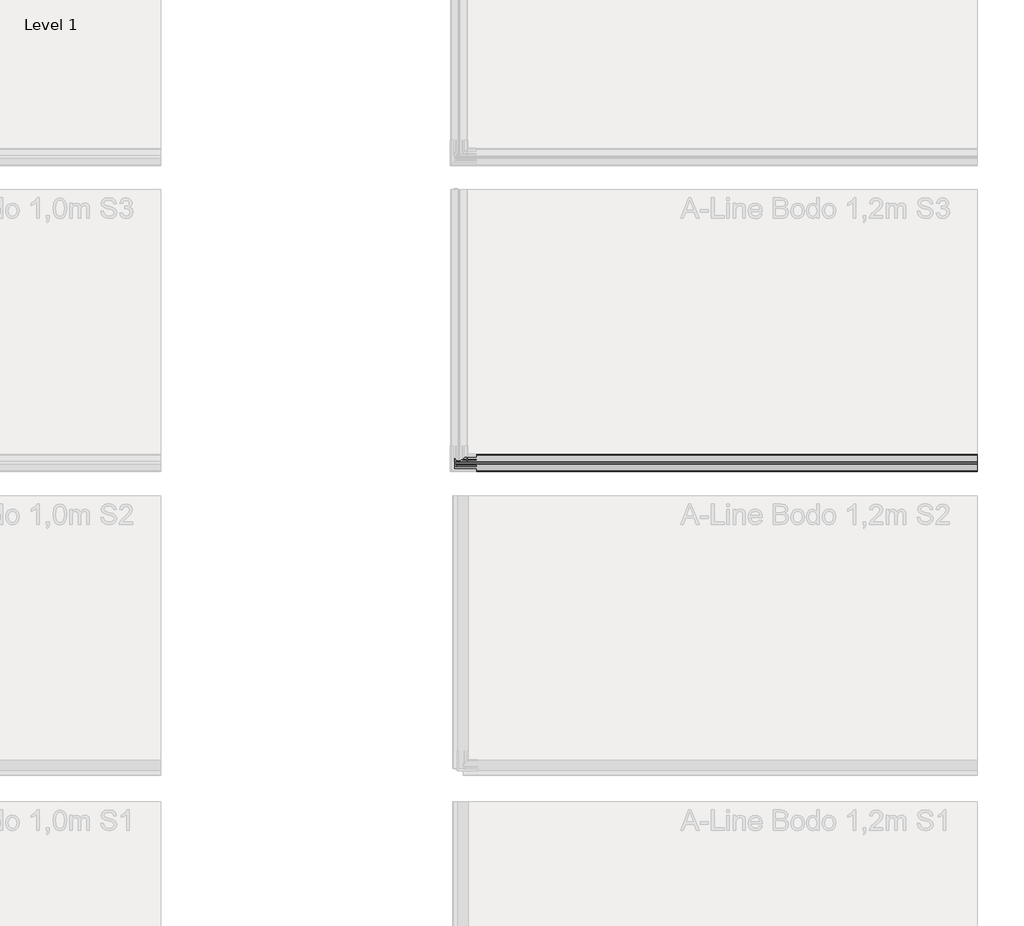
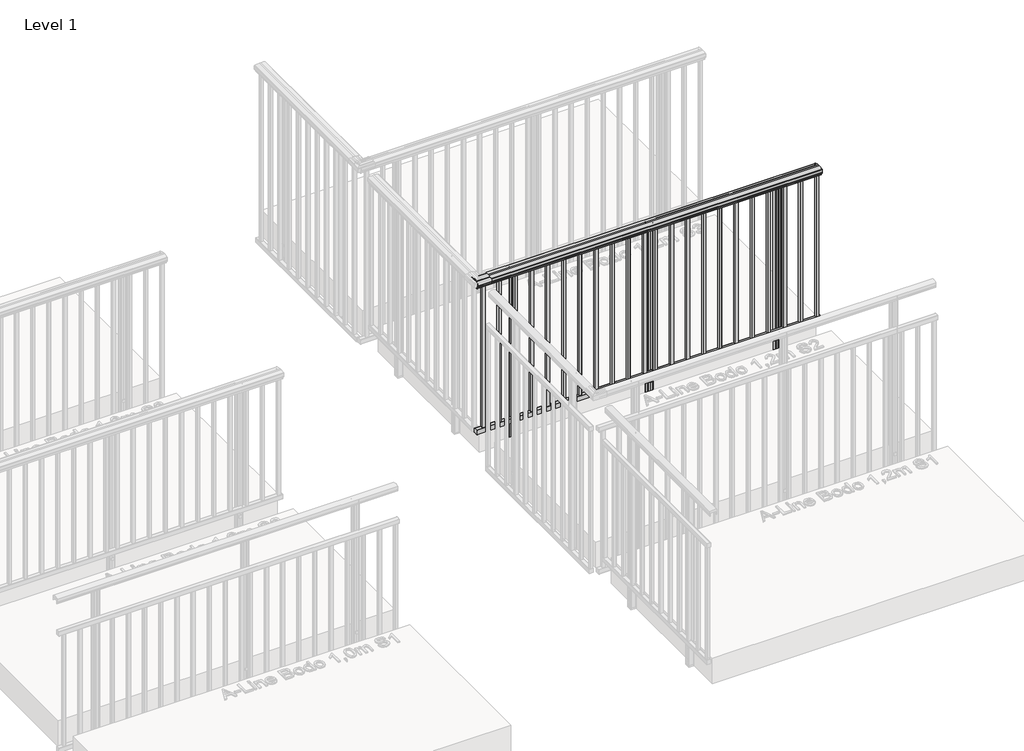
# One storey, part 13 of 66: 1 railing.
"""IFC4 building model written with IfcOpenShell, lengths in millimetres."""

from ifc_helpers import new_model, si_unit, point, frame, frame_2d, origin, place, context, project, spatial, polyline, circle_curve, trimmed, segment, composite_curve, outline, extrude, element, save

model = new_model("IFC4")

# Units and contexts
model_context = context("Model", 3, world=origin())
ifc_project = project(units=[si_unit("LENGTHUNIT", "METRE", prefix="MILLI")], contexts=[model_context])

# Site, building, storey
site = spatial("IfcSite", under=ifc_project)
building = spatial("IfcBuilding", under=site)
storey = spatial("IfcBuildingStorey", under=building, Name="Level 1", Elevation=0.0)

# Railing
placement = place(None, origin())
element("IfcRailing", 1, ObjectType="A-Line Bodo 1,2m S3", at=placement, inside=storey, context=model_context, shape_type="SweptSolid", body=[
    extrude(outline(composite_curve([segment(polyline([(-14649.7120598, 1170.6825033), (-14649.7120598, 1191.2139911)]), True, "CONTINUOUS"), segment(trimmed(circle_curve(frame_2d((-14646.7120598, 1191.2139911)), 3.0), [point((-14649.7120598, 1191.2139911))], [point((-14647.7785512, 1194.0180233))], False, "CARTESIAN"), True, "CONTINUOUS"), segment(trimmed(circle_curve(frame_2d((-14615.2120598, 1108.3938053)), 91.6083133), [point((-14647.7785512, 1194.0180233))], [point((-14615.2120598, 1200.0021186))], False, "CARTESIAN"), True, "CONTINUOUS"), segment(polyline([(-14615.2120598, 1200.0021186), (-14602.2120598, 1200.0021186)]), True, "CONTINUOUS"), segment(trimmed(circle_curve(frame_2d((-14602.2120598, 1108.3938053)), 91.6083133), [point((-14602.2120598, 1200.0021186))], [point((-14569.6455685, 1194.0180233))], False, "CARTESIAN"), True, "CONTINUOUS"), segment(trimmed(circle_curve(frame_2d((-14570.7120598, 1191.2139911)), 3.0), [point((-14569.6455685, 1194.0180233))], [point((-14567.7120598, 1191.2139911))], False, "CARTESIAN"), True, "CONTINUOUS"), segment(polyline([(-14567.7120598, 1191.2139911), (-14567.7522522, 1170.5325033), (-14568.3670352, 1169.9177203), (-14567.7120598, 1169.2627449), (-14567.7120598, 1165.5021186)]), True, "CONTINUOUS"), segment(trimmed(circle_curve(frame_2d((-14568.2120598, 1165.5021186)), 0.5), [point((-14567.7120598, 1165.5021186))], [point((-14568.2120598, 1165.0021186))], False, "CARTESIAN"), True, "CONTINUOUS"), segment(polyline([(-14568.2120598, 1165.0021186), (-14569.2120598, 1165.0021186), (-14569.2120598, 1179.5021186)]), True, "CONTINUOUS"), segment(trimmed(circle_curve(frame_2d((-14569.7120598, 1179.5021186)), 0.5), [point((-14569.2120598, 1179.5021186))], [point((-14569.7120598, 1180.0021186))], True, "CARTESIAN"), True, "CONTINUOUS"), segment(polyline([(-14569.7120598, 1180.0021186), (-14647.7120598, 1180.0021186)]), True, "CONTINUOUS"), segment(trimmed(circle_curve(frame_2d((-14647.7120598, 1179.5021186)), 0.5), [point((-14647.7120598, 1180.0021186))], [point((-14648.2120598, 1179.5021186))], True, "CARTESIAN"), True, "CONTINUOUS"), segment(polyline([(-14648.2120598, 1179.5021186), (-14648.2120598, 1165.0021186), (-14649.2120598, 1165.0021186)]), True, "CONTINUOUS"), segment(trimmed(circle_curve(frame_2d((-14649.2120598, 1165.5021186)), 0.5), [point((-14649.2120598, 1165.0021186))], [point((-14649.7120598, 1165.5021186))], False, "CARTESIAN"), True, "CONTINUOUS"), segment(polyline([(-14649.7120598, 1165.5021186), (-14649.6718675, 1169.4717338), (-14649.0865789, 1170.0570224), (-14649.7120598, 1170.6825033)]), True, "CONTINUOUS")], self_intersect=False)), frame((8444.0547322, 0.0, 0.0), z_axis=(1.0, 0.0, 0.0), x_axis=(0.0, 1.0, 0.0)), (0.0, 0.0, 1.0), 2560.0),
    extrude(outline(composite_curve([segment(trimmed(circle_curve(frame_2d((-14638.2613559, 1177.0)), 1.0), [point((-14639.2613559, 1177.0))], [point((-14638.2613559, 1178.0))], False, "CARTESIAN"), True, "CONTINUOUS"), segment(polyline([(-14638.2613559, 1178.0), (-14611.1613559, 1178.0)]), True, "CONTINUOUS"), segment(trimmed(circle_curve(frame_2d((-14611.1613559, 1177.0)), 1.0), [point((-14611.1613559, 1178.0))], [point((-14610.1613559, 1177.0))], False, "CARTESIAN"), True, "CONTINUOUS"), segment(polyline([(-14610.1613559, 1177.0), (-14610.1613559, 1144.8)]), True, "CONTINUOUS"), segment(trimmed(circle_curve(frame_2d((-14611.1613559, 1144.8)), 1.0), [point((-14610.1613559, 1144.8))], [point((-14611.1613559, 1143.8))], False, "CARTESIAN"), True, "CONTINUOUS"), segment(polyline([(-14611.1613559, 1143.8), (-14638.2613559, 1143.8)]), True, "CONTINUOUS"), segment(trimmed(circle_curve(frame_2d((-14638.2613559, 1144.8)), 1.0), [point((-14638.2613559, 1143.8))], [point((-14639.2613559, 1144.8))], False, "CARTESIAN"), True, "CONTINUOUS"), segment(polyline([(-14639.2613559, 1144.8), (-14639.2613559, 1177.0)]), True, "CONTINUOUS")], self_intersect=False)), frame((8444.0547322, 0.0, 0.0), z_axis=(1.0, 0.0, 0.0), x_axis=(0.0, 1.0, 0.0)), (0.0, 0.0, 1.0), 2560.0),
    extrude(outline(composite_curve([segment(polyline([(-14638.2613559, 34.2), (-14611.1613559, 34.2)]), True, "CONTINUOUS"), segment(trimmed(circle_curve(frame_2d((-14611.1613559, 33.2)), 1.0), [point((-14611.1613559, 34.2))], [point((-14610.1613559, 33.2))], False, "CARTESIAN"), True, "CONTINUOUS"), segment(polyline([(-14610.1613559, 33.2), (-14610.1613559, 1.0)]), True, "CONTINUOUS"), segment(trimmed(circle_curve(frame_2d((-14611.1613559, 1.0)), 1.0), [point((-14610.1613559, 1.0))], [point((-14611.1613559, 0.0))], False, "CARTESIAN"), True, "CONTINUOUS"), segment(polyline([(-14611.1613559, 0.0), (-14638.2613559, 0.0)]), True, "CONTINUOUS"), segment(trimmed(circle_curve(frame_2d((-14638.2613559, 1.0)), 1.0), [point((-14638.2613559, 0.0))], [point((-14639.2613559, 1.0))], False, "CARTESIAN"), True, "CONTINUOUS"), segment(polyline([(-14639.2613559, 1.0), (-14639.2613559, 33.2)]), True, "CONTINUOUS"), segment(trimmed(circle_curve(frame_2d((-14638.2613559, 33.2)), 1.0), [point((-14639.2613559, 33.2))], [point((-14638.2613559, 34.2))], False, "CARTESIAN"), True, "CONTINUOUS")], self_intersect=False)), frame((8444.0547322, 0.0, 0.0), z_axis=(1.0, 0.0, 0.0), x_axis=(0.0, 1.0, 0.0)), (0.0, 0.0, 1.0), 2560.0),
    extrude(outline(polyline([(10969.0547322, -14634.7113559), (10969.0547322, -14614.7113559), (10989.0547322, -14614.7113559), (10989.0547322, -14634.7113559), (10969.0547322, -14634.7113559)]), holes=[polyline([(10971.0547322, -14632.7113559), (10987.0547322, -14632.7113559), (10987.0547322, -14616.7113559), (10971.0547322, -14616.7113559), (10971.0547322, -14632.7113559)])]), frame((0.0, 0.0, 34.0), z_axis=(0.0, 0.0, 1.0), x_axis=(1.0, 0.0, 0.0)), (0.0, 0.0, 1.0), 1110.0),
    extrude(outline(polyline([(10849.0547322, -14634.7113559), (10849.0547322, -14614.7113559), (10869.0547322, -14614.7113559), (10869.0547322, -14634.7113559), (10849.0547322, -14634.7113559)]), holes=[polyline([(10851.0547322, -14632.7113559), (10867.0547322, -14632.7113559), (10867.0547322, -14616.7113559), (10851.0547322, -14616.7113559), (10851.0547322, -14632.7113559)])]), frame((0.0, 0.0, 34.0), z_axis=(0.0, 0.0, 1.0), x_axis=(1.0, 0.0, 0.0)), (0.0, 0.0, 1.0), 1110.0),
    extrude(outline(polyline([(10729.0547322, -14634.7113559), (10729.0547322, -14614.7113559), (10749.0547322, -14614.7113559), (10749.0547322, -14634.7113559), (10729.0547322, -14634.7113559)]), holes=[polyline([(10731.0547322, -14632.7113559), (10747.0547322, -14632.7113559), (10747.0547322, -14616.7113559), (10731.0547322, -14616.7113559), (10731.0547322, -14632.7113559)])]), frame((0.0, 0.0, 34.0), z_axis=(0.0, 0.0, 1.0), x_axis=(1.0, 0.0, 0.0)), (0.0, 0.0, 1.0), 1110.0),
    extrude(outline(polyline([(10609.0547322, -14634.7113559), (10609.0547322, -14614.7113559), (10629.0547322, -14614.7113559), (10629.0547322, -14634.7113559), (10609.0547322, -14634.7113559)]), holes=[polyline([(10611.0547322, -14632.7113559), (10627.0547322, -14632.7113559), (10627.0547322, -14616.7113559), (10611.0547322, -14616.7113559), (10611.0547322, -14632.7113559)])]), frame((0.0, 0.0, 34.0), z_axis=(0.0, 0.0, 1.0), x_axis=(1.0, 0.0, 0.0)), (0.0, 0.0, 1.0), 1110.0),
    extrude(outline(polyline([(10489.0547322, -14634.7113559), (10489.0547322, -14614.7113559), (10509.0547322, -14614.7113559), (10509.0547322, -14634.7113559), (10489.0547322, -14634.7113559)]), holes=[polyline([(10491.0547322, -14632.7113559), (10507.0547322, -14632.7113559), (10507.0547322, -14616.7113559), (10491.0547322, -14616.7113559), (10491.0547322, -14632.7113559)])]), frame((0.0, 0.0, 34.0), z_axis=(0.0, 0.0, 1.0), x_axis=(1.0, 0.0, 0.0)), (0.0, 0.0, 1.0), 1110.0),
    extrude(outline(polyline([(10369.0547322, -14634.7113559), (10369.0547322, -14614.7113559), (10389.0547322, -14614.7113559), (10389.0547322, -14634.7113559), (10369.0547322, -14634.7113559)]), holes=[polyline([(10371.0547322, -14632.7113559), (10387.0547322, -14632.7113559), (10387.0547322, -14616.7113559), (10371.0547322, -14616.7113559), (10371.0547322, -14632.7113559)])]), frame((0.0, 0.0, 34.0), z_axis=(0.0, 0.0, 1.0), x_axis=(1.0, 0.0, 0.0)), (0.0, 0.0, 1.0), 1110.0),
    extrude(outline(polyline([(10249.0547322, -14634.7113559), (10249.0547322, -14614.7113559), (10269.0547322, -14614.7113559), (10269.0547322, -14634.7113559), (10249.0547322, -14634.7113559)]), holes=[polyline([(10251.0547322, -14632.7113559), (10267.0547322, -14632.7113559), (10267.0547322, -14616.7113559), (10251.0547322, -14616.7113559), (10251.0547322, -14632.7113559)])]), frame((0.0, 0.0, 34.0), z_axis=(0.0, 0.0, 1.0), x_axis=(1.0, 0.0, 0.0)), (0.0, 0.0, 1.0), 1110.0),
    extrude(outline(polyline([(10129.0547322, -14634.7113559), (10129.0547322, -14614.7113559), (10149.0547322, -14614.7113559), (10149.0547322, -14634.7113559), (10129.0547322, -14634.7113559)]), holes=[polyline([(10131.0547322, -14632.7113559), (10147.0547322, -14632.7113559), (10147.0547322, -14616.7113559), (10131.0547322, -14616.7113559), (10131.0547322, -14632.7113559)])]), frame((0.0, 0.0, 34.0), z_axis=(0.0, 0.0, 1.0), x_axis=(1.0, 0.0, 0.0)), (0.0, 0.0, 1.0), 1110.0),
    extrude(outline(polyline([(10009.0547322, -14634.7113559), (10009.0547322, -14614.7113559), (10029.0547322, -14614.7113559), (10029.0547322, -14634.7113559), (10009.0547322, -14634.7113559)]), holes=[polyline([(10011.0547322, -14632.7113559), (10027.0547322, -14632.7113559), (10027.0547322, -14616.7113559), (10011.0547322, -14616.7113559), (10011.0547322, -14632.7113559)])]), frame((0.0, 0.0, 34.0), z_axis=(0.0, 0.0, 1.0), x_axis=(1.0, 0.0, 0.0)), (0.0, 0.0, 1.0), 1110.0),
    extrude(outline(polyline([(9889.0547322, -14634.7113559), (9889.0547322, -14614.7113559), (9909.0547322, -14614.7113559), (9909.0547322, -14634.7113559), (9889.0547322, -14634.7113559)]), holes=[polyline([(9891.0547322, -14632.7113559), (9907.0547322, -14632.7113559), (9907.0547322, -14616.7113559), (9891.0547322, -14616.7113559), (9891.0547322, -14632.7113559)])]), frame((0.0, 0.0, 34.0), z_axis=(0.0, 0.0, 1.0), x_axis=(1.0, 0.0, 0.0)), (0.0, 0.0, 1.0), 1110.0),
    extrude(outline(polyline([(9769.0547322, -14634.7113559), (9769.0547322, -14614.7113559), (9789.0547322, -14614.7113559), (9789.0547322, -14634.7113559), (9769.0547322, -14634.7113559)]), holes=[polyline([(9771.0547322, -14632.7113559), (9787.0547322, -14632.7113559), (9787.0547322, -14616.7113559), (9771.0547322, -14616.7113559), (9771.0547322, -14632.7113559)])]), frame((0.0, 0.0, 34.0), z_axis=(0.0, 0.0, 1.0), x_axis=(1.0, 0.0, 0.0)), (0.0, 0.0, 1.0), 1110.0),
    extrude(outline(polyline([(9689.0547322, -14634.7113559), (9689.0547322, -14614.7113559), (9709.0547322, -14614.7113559), (9709.0547322, -14634.7113559), (9689.0547322, -14634.7113559)]), holes=[polyline([(9691.0547322, -14632.7113559), (9707.0547322, -14632.7113559), (9707.0547322, -14616.7113559), (9691.0547322, -14616.7113559), (9691.0547322, -14632.7113559)])]), frame((0.0, 0.0, 34.0), z_axis=(0.0, 0.0, 1.0), x_axis=(1.0, 0.0, 0.0)), (0.0, 0.0, 1.0), 1110.0),
    extrude(outline(polyline([(9569.0547322, -14634.7113559), (9569.0547322, -14614.7113559), (9589.0547322, -14614.7113559), (9589.0547322, -14634.7113559), (9569.0547322, -14634.7113559)]), holes=[polyline([(9571.0547322, -14632.7113559), (9587.0547322, -14632.7113559), (9587.0547322, -14616.7113559), (9571.0547322, -14616.7113559), (9571.0547322, -14632.7113559)])]), frame((0.0, 0.0, 34.0), z_axis=(0.0, 0.0, 1.0), x_axis=(1.0, 0.0, 0.0)), (0.0, 0.0, 1.0), 1110.0),
    extrude(outline(polyline([(9449.0547322, -14634.7113559), (9449.0547322, -14614.7113559), (9469.0547322, -14614.7113559), (9469.0547322, -14634.7113559), (9449.0547322, -14634.7113559)]), holes=[polyline([(9451.0547322, -14632.7113559), (9467.0547322, -14632.7113559), (9467.0547322, -14616.7113559), (9451.0547322, -14616.7113559), (9451.0547322, -14632.7113559)])]), frame((0.0, 0.0, 34.0), z_axis=(0.0, 0.0, 1.0), x_axis=(1.0, 0.0, 0.0)), (0.0, 0.0, 1.0), 1110.0),
    extrude(outline(polyline([(9329.0547322, -14634.7113559), (9329.0547322, -14614.7113559), (9349.0547322, -14614.7113559), (9349.0547322, -14634.7113559), (9329.0547322, -14634.7113559)]), holes=[polyline([(9331.0547322, -14632.7113559), (9347.0547322, -14632.7113559), (9347.0547322, -14616.7113559), (9331.0547322, -14616.7113559), (9331.0547322, -14632.7113559)])]), frame((0.0, 0.0, 34.0), z_axis=(0.0, 0.0, 1.0), x_axis=(1.0, 0.0, 0.0)), (0.0, 0.0, 1.0), 1110.0),
    extrude(outline(polyline([(9209.0547322, -14634.7113559), (9209.0547322, -14614.7113559), (9229.0547322, -14614.7113559), (9229.0547322, -14634.7113559), (9209.0547322, -14634.7113559)]), holes=[polyline([(9211.0547322, -14632.7113559), (9227.0547322, -14632.7113559), (9227.0547322, -14616.7113559), (9211.0547322, -14616.7113559), (9211.0547322, -14632.7113559)])]), frame((0.0, 0.0, 34.0), z_axis=(0.0, 0.0, 1.0), x_axis=(1.0, 0.0, 0.0)), (0.0, 0.0, 1.0), 1110.0),
    extrude(outline(polyline([(9089.0547322, -14634.7113559), (9089.0547322, -14614.7113559), (9109.0547322, -14614.7113559), (9109.0547322, -14634.7113559), (9089.0547322, -14634.7113559)]), holes=[polyline([(9091.0547322, -14632.7113559), (9107.0547322, -14632.7113559), (9107.0547322, -14616.7113559), (9091.0547322, -14616.7113559), (9091.0547322, -14632.7113559)])]), frame((0.0, 0.0, 34.0), z_axis=(0.0, 0.0, 1.0), x_axis=(1.0, 0.0, 0.0)), (0.0, 0.0, 1.0), 1110.0),
    extrude(outline(polyline([(8969.0547322, -14634.7113559), (8969.0547322, -14614.7113559), (8989.0547322, -14614.7113559), (8989.0547322, -14634.7113559), (8969.0547322, -14634.7113559)]), holes=[polyline([(8971.0547322, -14632.7113559), (8987.0547322, -14632.7113559), (8987.0547322, -14616.7113559), (8971.0547322, -14616.7113559), (8971.0547322, -14632.7113559)])]), frame((0.0, 0.0, 34.0), z_axis=(0.0, 0.0, 1.0), x_axis=(1.0, 0.0, 0.0)), (0.0, 0.0, 1.0), 1110.0),
    extrude(outline(polyline([(8849.0547322, -14634.7113559), (8849.0547322, -14614.7113559), (8869.0547322, -14614.7113559), (8869.0547322, -14634.7113559), (8849.0547322, -14634.7113559)]), holes=[polyline([(8851.0547322, -14632.7113559), (8867.0547322, -14632.7113559), (8867.0547322, -14616.7113559), (8851.0547322, -14616.7113559), (8851.0547322, -14632.7113559)])]), frame((0.0, 0.0, 34.0), z_axis=(0.0, 0.0, 1.0), x_axis=(1.0, 0.0, 0.0)), (0.0, 0.0, 1.0), 1110.0),
    extrude(outline(polyline([(8729.0547322, -14634.7113559), (8729.0547322, -14614.7113559), (8749.0547322, -14614.7113559), (8749.0547322, -14634.7113559), (8729.0547322, -14634.7113559)]), holes=[polyline([(8731.0547322, -14632.7113559), (8747.0547322, -14632.7113559), (8747.0547322, -14616.7113559), (8731.0547322, -14616.7113559), (8731.0547322, -14632.7113559)])]), frame((0.0, 0.0, 34.0), z_axis=(0.0, 0.0, 1.0), x_axis=(1.0, 0.0, 0.0)), (0.0, 0.0, 1.0), 1110.0),
    extrude(outline(polyline([(8609.0547322, -14634.7113559), (8609.0547322, -14614.7113559), (8629.0547322, -14614.7113559), (8629.0547322, -14634.7113559), (8609.0547322, -14634.7113559)]), holes=[polyline([(8611.0547322, -14632.7113559), (8627.0547322, -14632.7113559), (8627.0547322, -14616.7113559), (8611.0547322, -14616.7113559), (8611.0547322, -14632.7113559)])]), frame((0.0, 0.0, 34.0), z_axis=(0.0, 0.0, 1.0), x_axis=(1.0, 0.0, 0.0)), (0.0, 0.0, 1.0), 1110.0),
    extrude(outline(polyline([(8489.0547322, -14634.7113559), (8489.0547322, -14614.7113559), (8509.0547322, -14614.7113559), (8509.0547322, -14634.7113559), (8489.0547322, -14634.7113559)]), holes=[polyline([(8491.0547322, -14632.7113559), (8507.0547322, -14632.7113559), (8507.0547322, -14616.7113559), (8491.0547322, -14616.7113559), (8491.0547322, -14632.7113559)])]), frame((0.0, 0.0, 34.0), z_axis=(0.0, 0.0, 1.0), x_axis=(1.0, 0.0, 0.0)), (0.0, 0.0, 1.0), 1110.0),
    extrude(outline(composite_curve([segment(polyline([(9754.8575193, -14569.7113559), (9771.8808192, -14569.7113559)]), True, "CONTINUOUS"), segment(trimmed(circle_curve(frame_2d((9771.8808192, -14571.885269)), 2.173913), [point((9771.8808192, -14569.7113559))], [point((9774.0547322, -14571.885269))], False, "CARTESIAN"), True, "CONTINUOUS"), segment(polyline([(9774.0547322, -14571.885269), (9774.0547322, -14607.5374429)]), True, "CONTINUOUS"), segment(trimmed(circle_curve(frame_2d((9771.8808192, -14607.5374429)), 2.173913), [point((9774.0547322, -14607.5374429))], [point((9771.8808192, -14609.7113559))], False, "CARTESIAN"), True, "CONTINUOUS"), segment(polyline([(9771.8808192, -14609.7113559), (9754.8225694, -14609.676406), (9754.0547322, -14608.9085689), (9753.2868951, -14609.676406), (9736.2286453, -14609.7113559)]), True, "CONTINUOUS"), segment(trimmed(circle_curve(frame_2d((9736.2286453, -14607.5374429)), 2.173913), [point((9736.2286453, -14609.7113559))], [point((9734.0547322, -14607.5374429))], False, "CARTESIAN"), True, "CONTINUOUS"), segment(polyline([(9734.0547322, -14607.5374429), (9734.0547322, -14571.885269)]), True, "CONTINUOUS"), segment(trimmed(circle_curve(frame_2d((9736.2286453, -14571.885269)), 2.173913), [point((9734.0547322, -14571.885269))], [point((9736.2286452, -14569.7113559))], False, "CARTESIAN"), True, "CONTINUOUS"), segment(polyline([(9736.2286452, -14569.7113559), (9753.2868951, -14569.7463058), (9754.0547322, -14570.5141429), (9754.8575193, -14569.7113559)]), True, "CONTINUOUS")], self_intersect=False)), frame((0.0, 0.0, -200.0), z_axis=(0.0, 0.0, 1.0), x_axis=(1.0, 0.0, 0.0)), (0.0, 0.0, 1.0), 10.0),
    extrude(outline(composite_curve([segment(trimmed(circle_curve(frame_2d((0.0, 12.0)), 12.0), [point((0.0, 23.9999999))], [point((0.0, 0.0))], False, "CARTESIAN"), True, "CONTINUOUS"), segment(trimmed(circle_curve(frame_2d((0.0, 12.0)), 12.0), [point((0.0, 0.0))], [point((0.0, 23.9999999))], False, "CARTESIAN"), True, "CONTINUOUS")], self_intersect=False)), frame((9742.0444554, -14612.7751851, -151.0), z_axis=(0.0004029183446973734, 0.9999999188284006, 0.0), x_axis=(0.0, 0.0, 1.0)), (0.0, 0.0, 1.0), 3.0757477),
    extrude(outline(composite_curve([segment(trimmed(circle_curve(frame_2d((0.0, 12.0)), 12.0), [point((0.0, 23.9999999))], [point((0.0, 0.0))], False, "CARTESIAN"), True, "CONTINUOUS"), segment(trimmed(circle_curve(frame_2d((0.0, 12.0)), 12.0), [point((0.0, 0.0))], [point((0.0, 23.9999999))], False, "CARTESIAN"), True, "CONTINUOUS")], self_intersect=False)), frame((9742.0444554, -14612.7751851, -50.0), z_axis=(0.0004029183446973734, 0.9999999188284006, 0.0), x_axis=(0.0, 0.0, 1.0)), (0.0, 0.0, 1.0), 3.0757477),
    extrude(outline(composite_curve([segment(trimmed(circle_curve(frame_2d((9736.2286453, -14571.885269)), 2.173913), [point((9734.0547322, -14571.885269))], [point((9736.2286453, -14569.7113559))], False, "CARTESIAN"), True, "CONTINUOUS"), segment(polyline([(9736.2286453, -14569.7113559), (9753.2868951, -14569.7463058), (9754.185167, -14570.1143102), (9754.9530042, -14569.7113559), (9771.8808192, -14569.7113559)]), True, "CONTINUOUS"), segment(trimmed(circle_curve(frame_2d((9771.8808192, -14571.885269)), 2.173913), [point((9771.8808192, -14569.7113559))], [point((9774.0547322, -14571.885269))], False, "CARTESIAN"), True, "CONTINUOUS"), segment(polyline([(9774.0547322, -14571.885269), (9774.0547322, -14607.5374429)]), True, "CONTINUOUS"), segment(trimmed(circle_curve(frame_2d((9771.8808192, -14607.5374429)), 2.173913), [point((9774.0547322, -14607.5374429))], [point((9771.8808192, -14609.7113559))], False, "CARTESIAN"), True, "CONTINUOUS"), segment(polyline([(9771.8808192, -14609.7113559), (9754.8225694, -14609.676406), (9754.0547322, -14608.9085689), (9753.2868951, -14609.676406), (9736.2286453, -14609.7113559)]), True, "CONTINUOUS"), segment(trimmed(circle_curve(frame_2d((9736.2286453, -14607.5374429)), 2.173913), [point((9736.2286453, -14609.7113559))], [point((9734.0547322, -14607.5374429))], False, "CARTESIAN"), True, "CONTINUOUS"), segment(polyline([(9734.0547322, -14607.5374429), (9734.0547322, -14571.885269)]), True, "CONTINUOUS")], self_intersect=False), holes=[composite_curve([segment(polyline([(9737.5329931, -14574.059182), (9737.5329931, -14605.3635298)]), True, "CONTINUOUS"), segment(trimmed(circle_curve(frame_2d((9738.4025583, -14605.3635298)), 0.8695652), [point((9737.5329931, -14605.3635298))], [point((9738.4025583, -14606.233095))], True, "CARTESIAN"), True, "CONTINUOUS"), segment(polyline([(9738.4025583, -14606.233095), (9769.7069062, -14606.233095)]), True, "CONTINUOUS"), segment(trimmed(circle_curve(frame_2d((9769.7069062, -14605.3635298)), 0.8695652), [point((9769.7069062, -14606.233095))], [point((9770.5764714, -14605.3635298))], True, "CARTESIAN"), True, "CONTINUOUS"), segment(polyline([(9770.5764714, -14605.3635298), (9770.5764714, -14574.059182)]), True, "CONTINUOUS"), segment(trimmed(circle_curve(frame_2d((9769.7069062, -14574.059182)), 0.8695652), [point((9770.5764714, -14574.059182))], [point((9769.7069062, -14573.1896168))], True, "CARTESIAN"), True, "CONTINUOUS"), segment(polyline([(9769.7069062, -14573.1896168), (9738.4025583, -14573.1896168)]), True, "CONTINUOUS"), segment(trimmed(circle_curve(frame_2d((9738.4025583, -14574.059182)), 0.8695652), [point((9738.4025583, -14573.1896168))], [point((9737.5329931, -14574.059182))], True, "CARTESIAN"), True, "CONTINUOUS")], self_intersect=False)]), frame((0.0, 0.0, -190.0), z_axis=(0.0, 0.0, 1.0), x_axis=(1.0, 0.0, 0.0)), (0.0, 0.0, 1.0), 1370.0),
    extrude(outline(composite_curve([segment(polyline([(10704.8575193, -14569.7113559), (10721.8808192, -14569.7113559)]), True, "CONTINUOUS"), segment(trimmed(circle_curve(frame_2d((10721.8808192, -14571.885269)), 2.173913), [point((10721.8808192, -14569.7113559))], [point((10724.0547322, -14571.885269))], False, "CARTESIAN"), True, "CONTINUOUS"), segment(polyline([(10724.0547322, -14571.885269), (10724.0547322, -14607.5374429)]), True, "CONTINUOUS"), segment(trimmed(circle_curve(frame_2d((10721.8808192, -14607.5374429)), 2.173913), [point((10724.0547322, -14607.5374429))], [point((10721.8808192, -14609.7113559))], False, "CARTESIAN"), True, "CONTINUOUS"), segment(polyline([(10721.8808192, -14609.7113559), (10704.8225694, -14609.676406), (10704.0547322, -14608.9085689), (10703.2868951, -14609.676406), (10686.2286453, -14609.7113559)]), True, "CONTINUOUS"), segment(trimmed(circle_curve(frame_2d((10686.2286453, -14607.5374429)), 2.173913), [point((10686.2286453, -14609.7113559))], [point((10684.0547322, -14607.5374429))], False, "CARTESIAN"), True, "CONTINUOUS"), segment(polyline([(10684.0547322, -14607.5374429), (10684.0547322, -14571.885269)]), True, "CONTINUOUS"), segment(trimmed(circle_curve(frame_2d((10686.2286453, -14571.885269)), 2.173913), [point((10684.0547322, -14571.885269))], [point((10686.2286452, -14569.7113559))], False, "CARTESIAN"), True, "CONTINUOUS"), segment(polyline([(10686.2286452, -14569.7113559), (10703.2868951, -14569.7463058), (10704.0547322, -14570.5141429), (10704.8575193, -14569.7113559)]), True, "CONTINUOUS")], self_intersect=False)), frame((0.0, 0.0, -200.0), z_axis=(0.0, 0.0, 1.0), x_axis=(1.0, 0.0, 0.0)), (0.0, 0.0, 1.0), 10.0),
    extrude(outline(composite_curve([segment(trimmed(circle_curve(frame_2d((0.0, 12.0)), 12.0), [point((0.0, 23.9999999))], [point((0.0, 0.0))], False, "CARTESIAN"), True, "CONTINUOUS"), segment(trimmed(circle_curve(frame_2d((0.0, 12.0)), 12.0), [point((0.0, 0.0))], [point((0.0, 23.9999999))], False, "CARTESIAN"), True, "CONTINUOUS")], self_intersect=False)), frame((10692.0444554, -14612.7751851, -151.0), z_axis=(0.00040291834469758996, 0.9999999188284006, 0.0), x_axis=(0.0, 0.0, 1.0)), (0.0, 0.0, 1.0), 3.0757477),
    extrude(outline(composite_curve([segment(trimmed(circle_curve(frame_2d((0.0, 12.0)), 12.0), [point((0.0, 23.9999999))], [point((0.0, 0.0))], False, "CARTESIAN"), True, "CONTINUOUS"), segment(trimmed(circle_curve(frame_2d((0.0, 12.0)), 12.0), [point((0.0, 0.0))], [point((0.0, 23.9999999))], False, "CARTESIAN"), True, "CONTINUOUS")], self_intersect=False)), frame((10692.0444554, -14612.7751851, -50.0), z_axis=(0.00040291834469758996, 0.9999999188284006, 0.0), x_axis=(0.0, 0.0, 1.0)), (0.0, 0.0, 1.0), 3.0757477),
    extrude(outline(composite_curve([segment(trimmed(circle_curve(frame_2d((10686.2286453, -14571.885269)), 2.173913), [point((10684.0547322, -14571.885269))], [point((10686.2286453, -14569.7113559))], False, "CARTESIAN"), True, "CONTINUOUS"), segment(polyline([(10686.2286453, -14569.7113559), (10703.2868951, -14569.7463058), (10704.185167, -14570.1143102), (10704.9530042, -14569.7113559), (10721.8808192, -14569.7113559)]), True, "CONTINUOUS"), segment(trimmed(circle_curve(frame_2d((10721.8808192, -14571.885269)), 2.173913), [point((10721.8808192, -14569.7113559))], [point((10724.0547322, -14571.885269))], False, "CARTESIAN"), True, "CONTINUOUS"), segment(polyline([(10724.0547322, -14571.885269), (10724.0547322, -14607.5374429)]), True, "CONTINUOUS"), segment(trimmed(circle_curve(frame_2d((10721.8808192, -14607.5374429)), 2.173913), [point((10724.0547322, -14607.5374429))], [point((10721.8808192, -14609.7113559))], False, "CARTESIAN"), True, "CONTINUOUS"), segment(polyline([(10721.8808192, -14609.7113559), (10704.8225694, -14609.676406), (10704.0547322, -14608.9085689), (10703.2868951, -14609.676406), (10686.2286453, -14609.7113559)]), True, "CONTINUOUS"), segment(trimmed(circle_curve(frame_2d((10686.2286453, -14607.5374429)), 2.173913), [point((10686.2286453, -14609.7113559))], [point((10684.0547322, -14607.5374429))], False, "CARTESIAN"), True, "CONTINUOUS"), segment(polyline([(10684.0547322, -14607.5374429), (10684.0547322, -14571.885269)]), True, "CONTINUOUS")], self_intersect=False), holes=[composite_curve([segment(polyline([(10687.5329931, -14574.059182), (10687.5329931, -14605.3635298)]), True, "CONTINUOUS"), segment(trimmed(circle_curve(frame_2d((10688.4025583, -14605.3635298)), 0.8695652), [point((10687.5329931, -14605.3635298))], [point((10688.4025583, -14606.233095))], True, "CARTESIAN"), True, "CONTINUOUS"), segment(polyline([(10688.4025583, -14606.233095), (10719.7069062, -14606.233095)]), True, "CONTINUOUS"), segment(trimmed(circle_curve(frame_2d((10719.7069062, -14605.3635298)), 0.8695652), [point((10719.7069062, -14606.233095))], [point((10720.5764714, -14605.3635298))], True, "CARTESIAN"), True, "CONTINUOUS"), segment(polyline([(10720.5764714, -14605.3635298), (10720.5764714, -14574.059182)]), True, "CONTINUOUS"), segment(trimmed(circle_curve(frame_2d((10719.7069062, -14574.059182)), 0.8695652), [point((10720.5764714, -14574.059182))], [point((10719.7069062, -14573.1896168))], True, "CARTESIAN"), True, "CONTINUOUS"), segment(polyline([(10719.7069062, -14573.1896168), (10688.4025583, -14573.1896168)]), True, "CONTINUOUS"), segment(trimmed(circle_curve(frame_2d((10688.4025583, -14574.059182)), 0.8695652), [point((10688.4025583, -14573.1896168))], [point((10687.5329931, -14574.059182))], True, "CARTESIAN"), True, "CONTINUOUS")], self_intersect=False)]), frame((0.0, 0.0, -190.0), z_axis=(0.0, 0.0, 1.0), x_axis=(1.0, 0.0, 0.0)), (0.0, 0.0, 1.0), 1371.0),
    extrude(outline(composite_curve([segment(polyline([(8744.8575193, -14569.7113559), (8761.8808192, -14569.7113559)]), True, "CONTINUOUS"), segment(trimmed(circle_curve(frame_2d((8761.8808192, -14571.885269)), 2.173913), [point((8761.8808192, -14569.7113559))], [point((8764.0547322, -14571.885269))], False, "CARTESIAN"), True, "CONTINUOUS"), segment(polyline([(8764.0547322, -14571.885269), (8764.0547322, -14607.5374429)]), True, "CONTINUOUS"), segment(trimmed(circle_curve(frame_2d((8761.8808192, -14607.5374429)), 2.173913), [point((8764.0547322, -14607.5374429))], [point((8761.8808192, -14609.7113559))], False, "CARTESIAN"), True, "CONTINUOUS"), segment(polyline([(8761.8808192, -14609.7113559), (8744.8225694, -14609.676406), (8744.0547322, -14608.9085689), (8743.2868951, -14609.676406), (8726.2286453, -14609.7113559)]), True, "CONTINUOUS"), segment(trimmed(circle_curve(frame_2d((8726.2286453, -14607.5374429)), 2.173913), [point((8726.2286453, -14609.7113559))], [point((8724.0547322, -14607.5374429))], False, "CARTESIAN"), True, "CONTINUOUS"), segment(polyline([(8724.0547322, -14607.5374429), (8724.0547322, -14571.885269)]), True, "CONTINUOUS"), segment(trimmed(circle_curve(frame_2d((8726.2286453, -14571.885269)), 2.173913), [point((8724.0547322, -14571.885269))], [point((8726.2286452, -14569.7113559))], False, "CARTESIAN"), True, "CONTINUOUS"), segment(polyline([(8726.2286452, -14569.7113559), (8743.2868951, -14569.7463058), (8744.0547322, -14570.5141429), (8744.8575193, -14569.7113559)]), True, "CONTINUOUS")], self_intersect=False)), frame((0.0, 0.0, -200.0), z_axis=(0.0, 0.0, 1.0), x_axis=(1.0, 0.0, 0.0)), (0.0, 0.0, 1.0), 10.0),
    extrude(outline(composite_curve([segment(trimmed(circle_curve(frame_2d((0.0, 12.0)), 12.0), [point((0.0, 23.9999999))], [point((0.0, 0.0))], False, "CARTESIAN"), True, "CONTINUOUS"), segment(trimmed(circle_curve(frame_2d((0.0, 12.0)), 12.0), [point((0.0, 0.0))], [point((0.0, 23.9999999))], False, "CARTESIAN"), True, "CONTINUOUS")], self_intersect=False)), frame((8732.0444554, -14612.7751851, -151.0), z_axis=(0.0004029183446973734, 0.9999999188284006, 0.0), x_axis=(0.0, 0.0, 1.0)), (0.0, 0.0, 1.0), 3.0757477),
    extrude(outline(composite_curve([segment(trimmed(circle_curve(frame_2d((0.0, 12.0)), 12.0), [point((0.0, 23.9999999))], [point((0.0, 0.0))], False, "CARTESIAN"), True, "CONTINUOUS"), segment(trimmed(circle_curve(frame_2d((0.0, 12.0)), 12.0), [point((0.0, 0.0))], [point((0.0, 23.9999999))], False, "CARTESIAN"), True, "CONTINUOUS")], self_intersect=False)), frame((8732.0444554, -14612.7751851, -50.0), z_axis=(0.0004029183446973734, 0.9999999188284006, 0.0), x_axis=(0.0, 0.0, 1.0)), (0.0, 0.0, 1.0), 3.0757477),
    extrude(outline(composite_curve([segment(trimmed(circle_curve(frame_2d((8726.2286453, -14571.885269)), 2.173913), [point((8724.0547322, -14571.885269))], [point((8726.2286453, -14569.7113559))], False, "CARTESIAN"), True, "CONTINUOUS"), segment(polyline([(8726.2286453, -14569.7113559), (8743.2868951, -14569.7463058), (8744.185167, -14570.1143102), (8744.9530042, -14569.7113559), (8761.8808192, -14569.7113559)]), True, "CONTINUOUS"), segment(trimmed(circle_curve(frame_2d((8761.8808192, -14571.885269)), 2.173913), [point((8761.8808192, -14569.7113559))], [point((8764.0547322, -14571.885269))], False, "CARTESIAN"), True, "CONTINUOUS"), segment(polyline([(8764.0547322, -14571.885269), (8764.0547322, -14607.5374429)]), True, "CONTINUOUS"), segment(trimmed(circle_curve(frame_2d((8761.8808192, -14607.5374429)), 2.173913), [point((8764.0547322, -14607.5374429))], [point((8761.8808192, -14609.7113559))], False, "CARTESIAN"), True, "CONTINUOUS"), segment(polyline([(8761.8808192, -14609.7113559), (8744.8225694, -14609.676406), (8744.0547322, -14608.9085689), (8743.2868951, -14609.676406), (8726.2286453, -14609.7113559)]), True, "CONTINUOUS"), segment(trimmed(circle_curve(frame_2d((8726.2286453, -14607.5374429)), 2.173913), [point((8726.2286453, -14609.7113559))], [point((8724.0547322, -14607.5374429))], False, "CARTESIAN"), True, "CONTINUOUS"), segment(polyline([(8724.0547322, -14607.5374429), (8724.0547322, -14571.885269)]), True, "CONTINUOUS")], self_intersect=False), holes=[composite_curve([segment(polyline([(8727.5329931, -14574.059182), (8727.5329931, -14605.3635298)]), True, "CONTINUOUS"), segment(trimmed(circle_curve(frame_2d((8728.4025583, -14605.3635298)), 0.8695652), [point((8727.5329931, -14605.3635298))], [point((8728.4025583, -14606.233095))], True, "CARTESIAN"), True, "CONTINUOUS"), segment(polyline([(8728.4025583, -14606.233095), (8759.7069062, -14606.233095)]), True, "CONTINUOUS"), segment(trimmed(circle_curve(frame_2d((8759.7069062, -14605.3635298)), 0.8695652), [point((8759.7069062, -14606.233095))], [point((8760.5764714, -14605.3635298))], True, "CARTESIAN"), True, "CONTINUOUS"), segment(polyline([(8760.5764714, -14605.3635298), (8760.5764714, -14574.059182)]), True, "CONTINUOUS"), segment(trimmed(circle_curve(frame_2d((8759.7069062, -14574.059182)), 0.8695652), [point((8760.5764714, -14574.059182))], [point((8759.7069062, -14573.1896168))], True, "CARTESIAN"), True, "CONTINUOUS"), segment(polyline([(8759.7069062, -14573.1896168), (8728.4025583, -14573.1896168)]), True, "CONTINUOUS"), segment(trimmed(circle_curve(frame_2d((8728.4025583, -14574.059182)), 0.8695652), [point((8728.4025583, -14573.1896168))], [point((8727.5329931, -14574.059182))], True, "CARTESIAN"), True, "CONTINUOUS")], self_intersect=False)]), frame((0.0, 0.0, -190.0), z_axis=(0.0, 0.0, 1.0), x_axis=(1.0, 0.0, 0.0)), (0.0, 0.0, 1.0), 1371.0),
])

save(model, "model.ifc")
